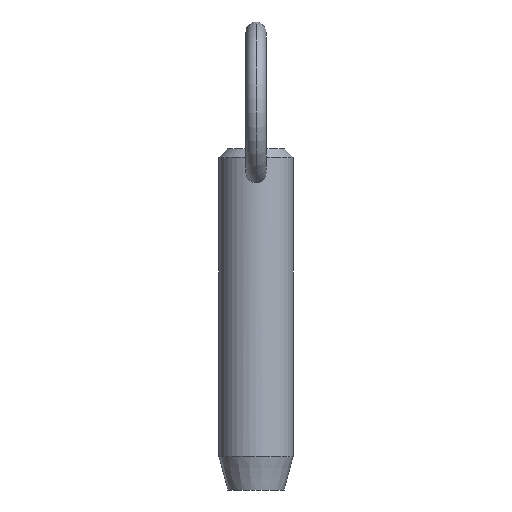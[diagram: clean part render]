
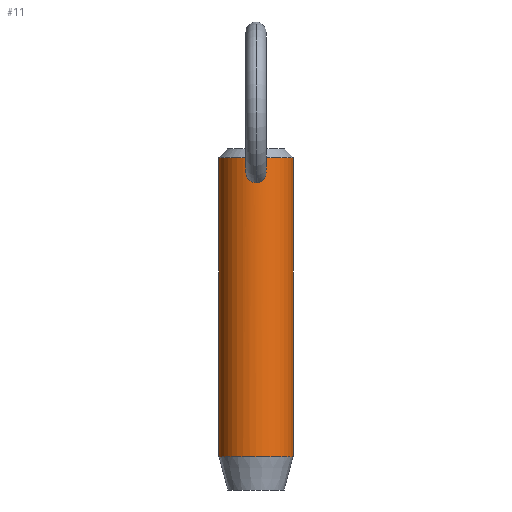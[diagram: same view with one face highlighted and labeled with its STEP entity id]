
A CAD part, front view. The second image highlights one B-rep face of the part: STEP entity #11.
In plain terms, the highlighted cylindrical face has radius 5.55 mm (diameter 11.1 mm), a partial arc.
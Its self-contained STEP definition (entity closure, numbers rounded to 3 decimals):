
#9 = DIRECTION ( 'NONE',  ( 0., 0., 1. ) ) ;
#11 = ADVANCED_FACE ( 'NONE', ( #103, #122 ), #86, .T. ) ;
#16 = ORIENTED_EDGE ( 'NONE', *, *, #446, .T. ) ;
#31 = CARTESIAN_POINT ( 'NONE',  ( 0.515, -5.527, 35.122 ) ) ;
#32 = CARTESIAN_POINT ( 'NONE',  ( -1.294, -5.398, 34.286 ) ) ;
#34 = CARTESIAN_POINT ( 'NONE',  ( -1.362, -5.381, 32.632 ) ) ;
#37 = CARTESIAN_POINT ( 'NONE',  ( 1.486, -5.347, 33.674 ) ) ;
#39 = VERTEX_POINT ( 'NONE', #362 ) ;
#46 = VERTEX_POINT ( 'NONE', #426 ) ;
#50 = CARTESIAN_POINT ( 'NONE',  ( -5.55, 0., 35.55 ) ) ;
#57 = AXIS2_PLACEMENT_3D ( 'NONE', #133, #9, #496 ) ;
#59 = EDGE_CURVE ( 'NONE', #39, #488, #493, .T. ) ;
#70 = CARTESIAN_POINT ( 'NONE',  ( 0.941, -5.471, 34.807 ) ) ;
#73 = CARTESIAN_POINT ( 'NONE',  ( -0.716, -5.504, 31.952 ) ) ;
#74 = VERTEX_POINT ( 'NONE', #348 ) ;
#76 = CARTESIAN_POINT ( 'NONE',  ( -0.785, -5.497, 34.958 ) ) ;
#78 = CARTESIAN_POINT ( 'NONE',  ( 0.214, -5.547, 35.228 ) ) ;
#80 = CIRCLE ( 'NONE', #57, 5.55 ) ;
#81 = EDGE_LOOP ( 'NONE', ( #181, #115, #466, #16 ) ) ;
#83 = CARTESIAN_POINT ( 'NONE',  ( 1.477, -5.35, 33.044 ) ) ;
#86 = CYLINDRICAL_SURFACE ( 'NONE', #286, 5.55 ) ;
#92 = DIRECTION ( 'NONE',  ( 0., 0., -1. ) ) ;
#95 = DIRECTION ( 'NONE',  ( 0., 0., -1. ) ) ;
#96 = EDGE_CURVE ( 'NONE', #403, #46, #419, .T. ) ;
#98 = EDGE_LOOP ( 'NONE', ( #233, #109 ) ) ;
#103 = FACE_OUTER_BOUND ( 'NONE', #81, .T. ) ;
#109 = ORIENTED_EDGE ( 'NONE', *, *, #96, .T. ) ;
#115 = ORIENTED_EDGE ( 'NONE', *, *, #59, .T. ) ;
#122 = FACE_BOUND ( 'NONE', #98, .T. ) ;
#133 = CARTESIAN_POINT ( 'NONE',  ( 0., 0., -9.2 ) ) ;
#150 = CARTESIAN_POINT ( 'NONE',  ( 1.194, -5.422, 34.471 ) ) ;
#152 = CARTESIAN_POINT ( 'NONE',  ( -1.503, -5.343, 33.359 ) ) ;
#155 = CARTESIAN_POINT ( 'NONE',  ( -1.5, -5.343, 33.253 ) ) ;
#181 = ORIENTED_EDGE ( 'NONE', *, *, #378, .F. ) ;
#188 = CARTESIAN_POINT ( 'NONE',  ( -1.455, -5.356, 32.936 ) ) ;
#189 = EDGE_CURVE ( 'NONE', #46, #403, #467, .T. ) ;
#190 = CARTESIAN_POINT ( 'NONE',  ( 0., -5.55, 35.245 ) ) ;
#193 = CARTESIAN_POINT ( 'NONE',  ( -0.523, -5.526, 31.866 ) ) ;
#198 = CARTESIAN_POINT ( 'NONE',  ( 0.107, -5.55, 31.777 ) ) ;
#200 = CARTESIAN_POINT ( 'NONE',  ( 0., -5.55, 31.777 ) ) ;
#207 = CARTESIAN_POINT ( 'NONE',  ( 0., -5.55, 31.777 ) ) ;
#214 = LINE ( 'NONE', #454, #475 ) ;
#223 = CARTESIAN_POINT ( 'NONE',  ( -1.26, -5.407, 32.442 ) ) ;
#224 = CARTESIAN_POINT ( 'NONE',  ( -0.976, -5.464, 32.131 ) ) ;
#232 = CARTESIAN_POINT ( 'NONE',  ( 1.44, -5.36, 33.886 ) ) ;
#233 = ORIENTED_EDGE ( 'NONE', *, *, #189, .T. ) ;
#234 = CARTESIAN_POINT ( 'NONE',  ( 1.26, -5.407, 32.443 ) ) ;
#236 = CARTESIAN_POINT ( 'NONE',  ( 0.421, -5.535, 31.832 ) ) ;
#257 = AXIS2_PLACEMENT_3D ( 'NONE', #303, #479, #425 ) ;
#272 = CARTESIAN_POINT ( 'NONE',  ( -0.513, -5.527, 35.123 ) ) ;
#275 = CARTESIAN_POINT ( 'NONE',  ( 0.807, -5.492, 32.006 ) ) ;
#286 = AXIS2_PLACEMENT_3D ( 'NONE', #320, #92, #465 ) ;
#288 = CARTESIAN_POINT ( 'NONE',  ( 5.55, 0., 30.5 ) ) ;
#300 = CARTESIAN_POINT ( 'NONE',  ( 0., -5.55, 31.777 ) ) ;
#303 = CARTESIAN_POINT ( 'NONE',  ( 0., 0., 35.55 ) ) ;
#305 = CARTESIAN_POINT ( 'NONE',  ( 0.786, -5.497, 34.957 ) ) ;
#307 = CARTESIAN_POINT ( 'NONE',  ( -0.42, -5.535, 31.832 ) ) ;
#317 = CARTESIAN_POINT ( 'NONE',  ( 1.503, -5.343, 33.359 ) ) ;
#320 = CARTESIAN_POINT ( 'NONE',  ( 0., 0., 30.5 ) ) ;
#334 = EDGE_CURVE ( 'NONE', #488, #433, #214, .T. ) ;
#348 = CARTESIAN_POINT ( 'NONE',  ( 5.55, 0., -9.2 ) ) ;
#350 = CARTESIAN_POINT ( 'NONE',  ( -0.107, -5.55, 31.777 ) ) ;
#352 = CARTESIAN_POINT ( 'NONE',  ( -0.106, -5.55, 35.245 ) ) ;
#355 = CARTESIAN_POINT ( 'NONE',  ( -1.477, -5.35, 33.042 ) ) ;
#358 = CARTESIAN_POINT ( 'NONE',  ( 1.055, -5.449, 32.205 ) ) ;
#362 = CARTESIAN_POINT ( 'NONE',  ( 5.55, 0., 35.55 ) ) ;
#378 = EDGE_CURVE ( 'NONE', #39, #74, #455, .T. ) ;
#390 = CARTESIAN_POINT ( 'NONE',  ( 0., -5.55, 35.245 ) ) ;
#392 = CARTESIAN_POINT ( 'NONE',  ( -0.212, -5.547, 31.788 ) ) ;
#394 = CARTESIAN_POINT ( 'NONE',  ( -1.195, -5.421, 34.471 ) ) ;
#398 = CARTESIAN_POINT ( 'NONE',  ( 1.295, -5.397, 34.282 ) ) ;
#402 = VECTOR ( 'NONE', #413, 1000. ) ;
#403 = VERTEX_POINT ( 'NONE', #207 ) ;
#404 = CARTESIAN_POINT ( 'NONE',  ( 0.523, -5.526, 31.866 ) ) ;
#405 = CARTESIAN_POINT ( 'NONE',  ( 1.5, -5.343, 33.254 ) ) ;
#413 = DIRECTION ( 'NONE',  ( 0., 0., -1. ) ) ;
#414 = CARTESIAN_POINT ( 'NONE',  ( -5.55, 0., -9.2 ) ) ;
#419 = B_SPLINE_CURVE_WITH_KNOTS ( 'NONE', 3,
 ( #300, #350, #392, #307, #193, #73, #436, #224, #520, #223, #34, #188, #355, #155, #152, #483, #482, #32, #394, #430, #76, #272, #431, #428, #352, #190 ),
 .UNSPECIFIED., .F., .F.,
 ( 4, 2, 2, 2, 2, 2, 2, 2, 2, 2, 2, 2, 4 ),
 ( 0.01, 0.01, 0.01, 0.011, 0.011, 0.012, 0.012, 0.012, 0.013, 0.013, 0.014, 0.014, 0.015 ),
 .UNSPECIFIED. ) ;
#425 = DIRECTION ( 'NONE',  ( 1., 0., 0. ) ) ;
#426 = CARTESIAN_POINT ( 'NONE',  ( 0., -5.55, 35.245 ) ) ;
#428 = CARTESIAN_POINT ( 'NONE',  ( -0.211, -5.547, 35.229 ) ) ;
#430 = CARTESIAN_POINT ( 'NONE',  ( -0.939, -5.472, 34.81 ) ) ;
#431 = CARTESIAN_POINT ( 'NONE',  ( -0.416, -5.535, 35.167 ) ) ;
#433 = VERTEX_POINT ( 'NONE', #414 ) ;
#436 = CARTESIAN_POINT ( 'NONE',  ( -0.807, -5.492, 32.005 ) ) ;
#441 = CARTESIAN_POINT ( 'NONE',  ( 0.977, -5.464, 32.132 ) ) ;
#446 = EDGE_CURVE ( 'NONE', #433, #74, #80, .T. ) ;
#454 = CARTESIAN_POINT ( 'NONE',  ( -5.55, 0., 30.5 ) ) ;
#455 = LINE ( 'NONE', #288, #402 ) ;
#465 = DIRECTION ( 'NONE',  ( -1., 0., 0. ) ) ;
#466 = ORIENTED_EDGE ( 'NONE', *, *, #334, .T. ) ;
#467 = B_SPLINE_CURVE_WITH_KNOTS ( 'NONE', 3,
 ( #390, #521, #78, #485, #31, #305, #70, #150, #398, #232, #37, #317, #405, #83, #524, #492, #234, #358, #441, #275, #495, #404, #236, #525, #198, #200 ),
 .UNSPECIFIED., .F., .F.,
 ( 4, 2, 2, 2, 2, 2, 2, 2, 2, 2, 2, 2, 4 ),
 ( 0.005, 0.005, 0.005, 0.006, 0.006, 0.007, 0.007, 0.008, 0.008, 0.009, 0.009, 0.009, 0.01 ),
 .UNSPECIFIED. ) ;
#475 = VECTOR ( 'NONE', #95, 1000. ) ;
#479 = DIRECTION ( 'NONE',  ( 0., 0., -1. ) ) ;
#482 = CARTESIAN_POINT ( 'NONE',  ( -1.44, -5.36, 33.887 ) ) ;
#483 = CARTESIAN_POINT ( 'NONE',  ( -1.485, -5.348, 33.679 ) ) ;
#485 = CARTESIAN_POINT ( 'NONE',  ( 0.417, -5.535, 35.167 ) ) ;
#488 = VERTEX_POINT ( 'NONE', #50 ) ;
#492 = CARTESIAN_POINT ( 'NONE',  ( 1.363, -5.38, 32.634 ) ) ;
#493 = CIRCLE ( 'NONE', #257, 5.55 ) ;
#495 = CARTESIAN_POINT ( 'NONE',  ( 0.716, -5.504, 31.952 ) ) ;
#496 = DIRECTION ( 'NONE',  ( -1., 0., 0. ) ) ;
#520 = CARTESIAN_POINT ( 'NONE',  ( -1.054, -5.449, 32.204 ) ) ;
#521 = CARTESIAN_POINT ( 'NONE',  ( 0.106, -5.55, 35.245 ) ) ;
#524 = CARTESIAN_POINT ( 'NONE',  ( 1.455, -5.356, 32.938 ) ) ;
#525 = CARTESIAN_POINT ( 'NONE',  ( 0.213, -5.547, 31.788 ) ) ;
